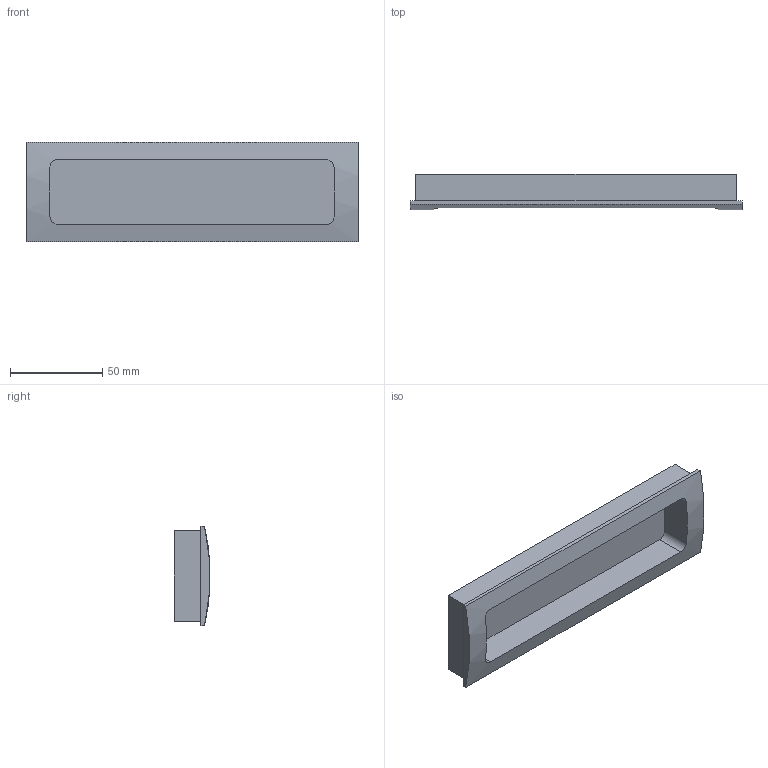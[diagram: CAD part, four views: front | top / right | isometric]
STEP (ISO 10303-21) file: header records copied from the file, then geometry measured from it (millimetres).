
FILE_DESCRIPTION( ( '' ), '1' );
FILE_NAME( 'C:/Documents and Settings/Sachin/Desktop/Sheet 10_1/stp/115183.stp', '2013-10-22T05:51:30', ( '' ), ( '' ), ' ', ' ', ' ' );
FILE_SCHEMA( ( 'CONFIG_CONTROL_DESIGN' ) );
Length unit declared in the file: millimetre
Products named in the file (1): 1
Bounding box: 180 x 19.42 x 54 mm (x, y, z)
Volume: 70384.2 mm3; surface area: 33461.9 mm2
Topology: 1 solids, 1 shells, 26 faces, 60 edges, 40 vertices
Faces by surface type: plane 17, cylinder 9
Entity records: 844 total; most frequent: CARTESIAN_POINT 195, DIRECTION 126, ORIENTED_EDGE 120, EDGE_CURVE 60, AXIS2_PLACEMENT_3D 43, VERTEX_POINT 40, LINE 40, VECTOR 40
